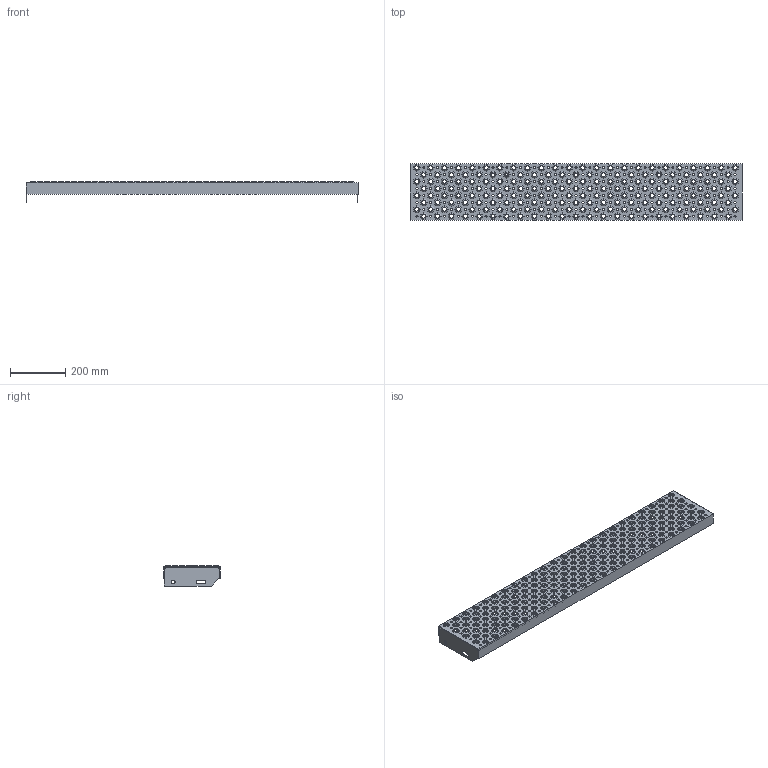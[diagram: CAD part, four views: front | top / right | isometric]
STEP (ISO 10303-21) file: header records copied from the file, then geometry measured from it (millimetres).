
FILE_DESCRIPTION(('Open CASCADE Model'),'2;1');
FILE_NAME('Open CASCADE Shape Model','2020-06-30T10:53:25',('Author'),( 'Open CASCADE'),'Open CASCADE STEP processor 7.2','Open CASCADE 7.2' ,'Unknown');
FILE_SCHEMA(('AUTOMOTIVE_DESIGN { 1 0 10303 214 1 1 1 1 }'));
Length unit declared in the file: millimetre
Products named in the file (7917): Open CASCADE STEP translator 7.2 1; Open CASCADE STEP translator 7.2 2; Open CASCADE STEP translator 7.2 3; Open CASCADE STEP translator 7.2 3.1; Open CASCADE STEP translator 7.2 3.2; Open CASCADE STEP translator 7.2 3.3; Open CASCADE STEP translator 7.2 3.4; Open CASCADE STEP translator 7.2 3.5; Open CASCADE STEP translator 7.2 3.6; Open CASCADE STEP translator 7.2 3.7; Open CASCADE STEP translator 7.2 3.8; Open CASCADE STEP translator 7.2 3.9; Open CASCADE STEP translator 7.2 3.10; Open CASCADE STEP translator 7.2 3.11; Open CASCADE STEP translator 7.2 3.12; Open CASCADE STEP translator 7.2 3.13; Open CASCADE STEP translator 7.2 3.14; Open CASCADE STEP translator 7.2 3.15; Open CASCADE STEP translator 7.2 3.16; Open CASCADE STEP translator 7.2 3.17; Open CASCADE STEP translator 7.2 3.18; Open CASCADE STEP translator 7.2 3.19; Open CASCADE STEP translator 7.2 3.20; Open CASCADE STEP translator 7.2 3.21; Open CASCADE STEP translator 7.2 3.22; Open CASCADE STEP translator 7.2 3.23; Open CASCADE STEP translator 7.2 3.24; Open CASCADE STEP translator 7.2 3.25; Open CASCADE STEP translator 7.2 3.26; Open CASCADE STEP translator 7.2 3.27; Open CASCADE STEP translator 7.2 3.28; Open CASCADE STEP translator 7.2 3.29; Open CASCADE STEP translator 7.2 3.30; Open CASCADE STEP translator 7.2 3.31; Open CASCADE STEP translator 7.2 3.32; Open CASCADE STEP translator 7.2 3.33; Open CASCADE STEP translator 7.2 3.34; Open CASCADE STEP translator 7.2 3.35; Open CASCADE STEP translator 7.2 3.36; Open CASCADE STEP translator 7.2 3.37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
Assembly tree (7914 placements, depth 2):
  Open CASCADE STEP translator 7.2 1
  Open CASCADE STEP translator 7.2 2
  Open CASCADE STEP translator 7.2 3
    Open CASCADE STEP translator 7.2 3.1
    Open CASCADE STEP translator 7.2 3.2
    Open CASCADE STEP translator 7.2 3.3
    Open CASCADE STEP translator 7.2 3.4
    Open CASCADE STEP translator 7.2 3.5
    Open CASCADE STEP translator 7.2 3.6
    Open CASCADE STEP translator 7.2 3.7
    Open CASCADE STEP translator 7.2 3.8
    Open CASCADE STEP translator 7.2 3.9
    Open CASCADE STEP translator 7.2 3.10
    Open CASCADE STEP translator 7.2 3.11
    Open CASCADE STEP translator 7.2 3.12
    Open CASCADE STEP translator 7.2 3.13
    Open CASCADE STEP translator 7.2 3.14
    Open CASCADE STEP translator 7.2 3.15
    Open CASCADE STEP translator 7.2 3.16
    Open CASCADE STEP translator 7.2 3.17
    Open CASCADE STEP translator 7.2 3.18
    Open CASCADE STEP translator 7.2 3.19
    Open CASCADE STEP translator 7.2 3.20
    Open CASCADE STEP translator 7.2 3.21
    Open CASCADE STEP translator 7.2 3.22
    Open CASCADE STEP translator 7.2 3.23
    Open CASCADE STEP translator 7.2 3.24
    Open CASCADE STEP translator 7.2 3.25
    Open CASCADE STEP translator 7.2 3.26
    Open CASCADE STEP translator 7.2 3.27
    Open CASCADE STEP translator 7.2 3.28
    Open CASCADE STEP translator 7.2 3.29
    Open CASCADE STEP translator 7.2 3.30
    Open CASCADE STEP translator 7.2 3.31
    Open CASCADE STEP translator 7.2 3.32
    Open CASCADE STEP translator 7.2 3.33
    Open CASCADE STEP translator 7.2 3.34
    Open CASCADE STEP translator 7.2 3.35
    Open CASCADE STEP translator 7.2 3.36
    Open CASCADE STEP translator 7.2 3.37
    Open CASCADE STEP translator 7.2 3.38
    Open CASCADE STEP translator 7.2 3.39
    Open CASCADE STEP translator 7.2 3.40
    Open CASCADE STEP translator 7.2 3.41
    Open CASCADE STEP translator 7.2 3.42
    Open CASCADE STEP translator 7.2 3.43
    Open CASCADE STEP translator 7.2 3.44
    Open CASCADE STEP translator 7.2 3.45
    Open CASCADE STEP translator 7.2 3.46
    Open CASCADE STEP translator 7.2 3.47
    Open CASCADE STEP translator 7.2 3.48
    Open CASCADE STEP translator 7.2 3.49
    Open CASCADE STEP translator 7.2 3.50
    Open CASCADE STEP translator 7.2 3.51
    Open CASCADE STEP translator 7.2 3.52
    Open CASCADE STEP translator 7.2 3.53
    Open CASCADE STEP translator 7.2 3.54
    Open CASCADE STEP translator 7.2 3.55
    Open CASCADE STEP translator 7.2 3.56
    Open CASCADE STEP translator 7.2 3.57
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Bounding box: 1200 x 205 x 73 mm (x, y, z)
Volume: 73545.2 mm3; surface area: 854638.1 mm2
Topology: 2 solids, 7916 shells, 7942 faces, 45288 edges, 45264 vertices
Faces by surface type: plane 7936, cylinder 6
Full cylindrical faces by diameter (mm): 13 x2
Entity records: 903904 total; most frequent: CARTESIAN_POINT 151817, DIRECTION 122346, LINE 90600, VECTOR 90600, ORIENTED_EDGE 45360, PCURVE 45360, DEFINITIONAL_REPRESENTATION 45360, EDGE_CURVE 45288
